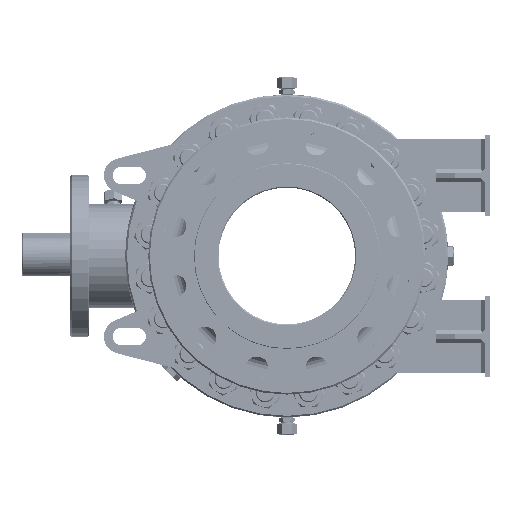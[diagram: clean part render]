
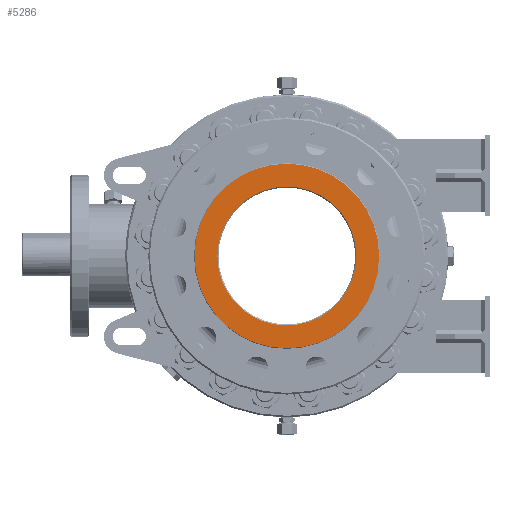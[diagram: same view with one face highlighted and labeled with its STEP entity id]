
A CAD part, left-side view. The second image highlights one B-rep face of the part: STEP entity #5286.
In plain terms, the highlighted planar face has unit normal (-1, 0, 0) as drawn and (1, 0, 0) by its records, which use the part's own axes.
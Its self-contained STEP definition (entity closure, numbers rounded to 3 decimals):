
#1000 = DIRECTION ( 'NONE',  ( -1., 0., 0. ) ) ;
#1145 = EDGE_CURVE ( 'NONE', #7060, #48855, #51260, .T. ) ;
#1354 = DIRECTION ( 'NONE',  ( -1., 0., 0. ) ) ;
#2391 = CARTESIAN_POINT ( 'NONE',  ( 269., 0., 0. ) ) ;
#2582 = AXIS2_PLACEMENT_3D ( 'NONE', #9686, #37805, #13697 ) ;
#4203 = CARTESIAN_POINT ( 'NONE',  ( 269., 0., -171.5 ) ) ;
#4682 = CARTESIAN_POINT ( 'NONE',  ( 269., 0., 171.5 ) ) ;
#5286 = ADVANCED_FACE ( 'NONE', ( #28205, #6888 ), #15855, .F. ) ;
#6387 = DIRECTION ( 'NONE',  ( 0., 0., 1. ) ) ;
#6888 = FACE_BOUND ( 'NONE', #44770, .T. ) ;
#7060 = VERTEX_POINT ( 'NONE', #4203 ) ;
#7413 = AXIS2_PLACEMENT_3D ( 'NONE', #24928, #1000, #29018 ) ;
#7954 = AXIS2_PLACEMENT_3D ( 'NONE', #35939, #15670, #19871 ) ;
#9686 = CARTESIAN_POINT ( 'NONE',  ( 269., 0., 0. ) ) ;
#13697 = DIRECTION ( 'NONE',  ( 0., 0., 1. ) ) ;
#13872 = CIRCLE ( 'NONE', #7413, 129. ) ;
#15670 = DIRECTION ( 'NONE',  ( -1., 0., 0. ) ) ;
#15855 = PLANE ( 'NONE',  #7954 ) ;
#16220 = AXIS2_PLACEMENT_3D ( 'NONE', #2391, #30437, #6387 ) ;
#19050 = ORIENTED_EDGE ( 'NONE', *, *, #35211, .F. ) ;
#19871 = DIRECTION ( 'NONE',  ( 0., 0., 1. ) ) ;
#24928 = CARTESIAN_POINT ( 'NONE',  ( 269., 0., 0. ) ) ;
#25287 = CARTESIAN_POINT ( 'NONE',  ( 269., 0., 0. ) ) ;
#27954 = ORIENTED_EDGE ( 'NONE', *, *, #1145, .F. ) ;
#28205 = FACE_OUTER_BOUND ( 'NONE', #31879, .T. ) ;
#28239 = EDGE_CURVE ( 'NONE', #40591, #38846, #13872, .T. ) ;
#29018 = DIRECTION ( 'NONE',  ( 0., 0., 1. ) ) ;
#29374 = DIRECTION ( 'NONE',  ( 0., 0., 1. ) ) ;
#30437 = DIRECTION ( 'NONE',  ( -1., 0., 0. ) ) ;
#31204 = CARTESIAN_POINT ( 'NONE',  ( 269., 0., 129. ) ) ;
#31758 = CARTESIAN_POINT ( 'NONE',  ( 269., 0., -129. ) ) ;
#31879 = EDGE_LOOP ( 'NONE', ( #19050, #27954 ) ) ;
#33728 = CIRCLE ( 'NONE', #16220, 129. ) ;
#35211 = EDGE_CURVE ( 'NONE', #48855, #7060, #35966, .T. ) ;
#35939 = CARTESIAN_POINT ( 'NONE',  ( 269., 129., 0. ) ) ;
#35966 = CIRCLE ( 'NONE', #48411, 171.5 ) ;
#36717 = ORIENTED_EDGE ( 'NONE', *, *, #28239, .T. ) ;
#37805 = DIRECTION ( 'NONE',  ( -1., 0., 0. ) ) ;
#38846 = VERTEX_POINT ( 'NONE', #31204 ) ;
#40591 = VERTEX_POINT ( 'NONE', #31758 ) ;
#41620 = EDGE_CURVE ( 'NONE', #38846, #40591, #33728, .T. ) ;
#44770 = EDGE_LOOP ( 'NONE', ( #36717, #51575 ) ) ;
#48411 = AXIS2_PLACEMENT_3D ( 'NONE', #25287, #1354, #29374 ) ;
#48855 = VERTEX_POINT ( 'NONE', #4682 ) ;
#51260 = CIRCLE ( 'NONE', #2582, 171.5 ) ;
#51575 = ORIENTED_EDGE ( 'NONE', *, *, #41620, .T. ) ;
